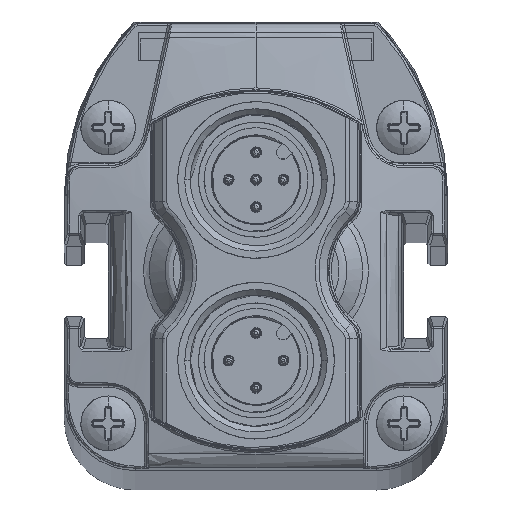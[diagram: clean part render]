
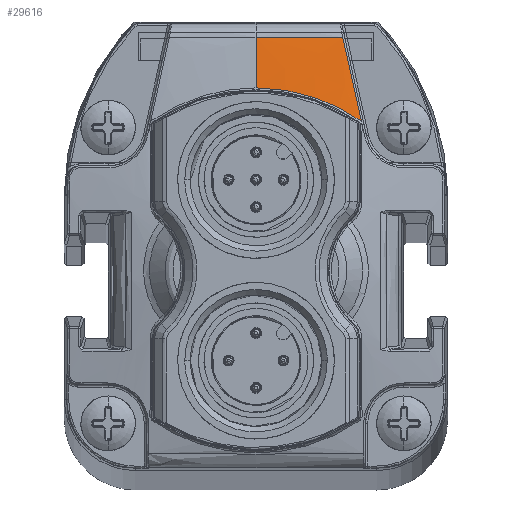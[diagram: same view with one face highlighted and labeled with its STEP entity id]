
A CAD part, top view. The second image highlights one B-rep face of the part: STEP entity #29616.
In plain terms, the highlighted free-form (B-spline) face has degree [3, 3] with [7, 4] control points.
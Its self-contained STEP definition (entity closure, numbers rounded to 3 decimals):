
#2644=CARTESIAN_POINT('',(54.965,32.33,1026.562));
#2662=CARTESIAN_POINT('',(55.089,32.195,1026.569));
#2663=CARTESIAN_POINT('',(55.071,32.277,1026.559));
#2664=CARTESIAN_POINT('',(55.032,32.439,1026.539));
#2665=CARTESIAN_POINT('',(54.961,32.767,1026.499));
#2666=CARTESIAN_POINT('',(54.833,33.339,1026.427));
#2667=CARTESIAN_POINT('',(54.581,34.482,1026.279));
#2668=CARTESIAN_POINT('',(54.083,36.73,1025.972));
#2669=CARTESIAN_POINT('',(53.659,38.649,1025.69));
#2670=CARTESIAN_POINT('',(53.379,39.915,1025.498));
#2672=CARTESIAN_POINT('',(54.965,32.33,1026.562));
#2673=CARTESIAN_POINT('',(55.015,32.295,1026.562));
#2674=CARTESIAN_POINT('',(55.059,32.248,1026.564));
#2675=CARTESIAN_POINT('',(55.089,32.195,1026.569));
#2677=CARTESIAN_POINT('',(45.459,35.307,1026.562));
#2678=CARTESIAN_POINT('',(45.941,35.307,1026.562));
#2679=CARTESIAN_POINT('',(46.906,35.265,1026.562));
#2680=CARTESIAN_POINT('',(48.34,35.078,1026.562));
#2681=CARTESIAN_POINT('',(49.752,34.767,1026.562));
#2682=CARTESIAN_POINT('',(51.132,34.335,1026.562));
#2683=CARTESIAN_POINT('',(52.468,33.784,1026.562));
#2684=CARTESIAN_POINT('',(53.753,33.121,1026.562));
#2685=CARTESIAN_POINT('',(54.57,32.605,1026.562));
#2686=CARTESIAN_POINT('',(54.965,32.33,1026.562));
#2688=DIRECTION('',(0.,-0.985,0.174));
#2689=VECTOR('',#2688,4.689);
#2690=CARTESIAN_POINT('',(45.459,39.925,1025.748));
#2691=LINE('',#2690,#2689);
#2692=CARTESIAN_POINT('',(53.379,39.915,1025.498));
#2693=CARTESIAN_POINT('',(50.746,39.921,1025.659));
#2694=CARTESIAN_POINT('',(48.103,39.925,1025.748));
#2695=CARTESIAN_POINT('',(45.459,39.925,1025.748));
#13844=CARTESIAN_POINT('',(53.379,39.915,1025.498));
#22973=VERTEX_POINT('',#2644);
#22975=VERTEX_POINT('',#2677);
#23032=CARTESIAN_POINT('',(45.459,39.925,1025.748));
#23033=VERTEX_POINT('',#23032);
#23073=VERTEX_POINT('',#13844);
#23075=VERTEX_POINT('',#2662);
#29577=CARTESIAN_POINT('',(45.459,35.269,1026.569));
#29578=CARTESIAN_POINT('',(45.459,37.294,1026.212));
#29579=CARTESIAN_POINT('',(45.459,39.318,1025.855));
#29580=CARTESIAN_POINT('',(45.459,41.342,1025.498));
#29581=CARTESIAN_POINT('',(46.206,35.269,1026.569));
#29582=CARTESIAN_POINT('',(46.297,37.294,1026.212));
#29583=CARTESIAN_POINT('',(46.388,39.318,1025.855));
#29584=CARTESIAN_POINT('',(46.479,41.342,1025.498));
#29585=CARTESIAN_POINT('',(47.758,35.169,1026.569));
#29586=CARTESIAN_POINT('',(48.038,37.181,1026.212));
#29587=CARTESIAN_POINT('',(48.318,39.193,1025.855));
#29588=CARTESIAN_POINT('',(48.598,41.205,1025.498));
#29589=CARTESIAN_POINT('',(50.209,34.646,1026.569));
#29590=CARTESIAN_POINT('',(50.788,36.595,1026.212));
#29591=CARTESIAN_POINT('',(51.366,38.543,1025.855));
#29592=CARTESIAN_POINT('',(51.945,40.491,1025.498));
#29593=CARTESIAN_POINT('',(52.701,33.693,1026.569));
#29594=CARTESIAN_POINT('',(53.582,35.525,1026.212));
#29595=CARTESIAN_POINT('',(54.464,37.357,1025.855));
#29596=CARTESIAN_POINT('',(55.346,39.189,1025.498));
#29597=CARTESIAN_POINT('',(54.316,32.746,1026.569));
#29598=CARTESIAN_POINT('',(55.394,34.463,1026.212));
#29599=CARTESIAN_POINT('',(56.472,36.18,1025.855));
#29600=CARTESIAN_POINT('',(57.55,37.897,1025.498));
#29601=CARTESIAN_POINT('',(55.09,32.196,1026.569));
#29602=CARTESIAN_POINT('',(56.263,33.846,1026.212));
#29603=CARTESIAN_POINT('',(57.436,35.495,1025.855));
#29604=CARTESIAN_POINT('',(58.608,37.145,1025.498));
#29605=B_SPLINE_SURFACE_WITH_KNOTS('',3,3,((#29577,#29578,#29579,#29580),
(#29581,#29582,#29583,#29584),(#29585,#29586,#29587,#29588),(#29589,#29590,
#29591,#29592),(#29593,#29594,#29595,#29596),(#29597,#29598,#29599,#29600),(
#29601,#29602,#29603,#29604)),.UNSPECIFIED.,.F.,.F.,.F.,(4,1,1,1,4),(4,4),(0.,
0.25,0.5,0.75,1.),(0.595,0.937),.UNSPECIFIED.);
#29606=ORIENTED_EDGE('',*,*,#29568,.F.);
#29607=ORIENTED_EDGE('',*,*,#29472,.F.);
#29609=ORIENTED_EDGE('',*,*,#29608,.F.);
#29611=ORIENTED_EDGE('',*,*,#29610,.F.);
#29613=ORIENTED_EDGE('',*,*,#29612,.F.);
#29614=EDGE_LOOP('',(#29606,#29607,#29609,#29611,#29613));
#29615=FACE_OUTER_BOUND('',#29614,.F.);
#29616=ADVANCED_FACE('',(#29615),#29605,.T.);
#2671=B_SPLINE_CURVE_WITH_KNOTS('',3,(#2662,#2663,#2664,#2665,#2666,#2667,#2668,
#2669,#2670),.UNSPECIFIED.,.F.,.F.,(4,1,1,1,1,1,4),(0.,0.032,
0.063,0.127,0.254,0.507,1.),
.UNSPECIFIED.);
#2676=B_SPLINE_CURVE_WITH_KNOTS('',3,(#2672,#2673,#2674,#2675),.UNSPECIFIED.,
.F.,.F.,(4,4),(0.,1.),.UNSPECIFIED.);
#2687=B_SPLINE_CURVE_WITH_KNOTS('',3,(#2677,#2678,#2679,#2680,#2681,#2682,#2683,
#2684,#2685,#2686),.UNSPECIFIED.,.F.,.F.,(4,1,1,1,1,1,1,4),(0.,
0.143,0.286,0.429,0.571,
0.714,0.857,1.),.UNSPECIFIED.);
#2696=B_SPLINE_CURVE_WITH_KNOTS('',3,(#2692,#2693,#2694,#2695),.UNSPECIFIED.,
.F.,.F.,(4,4),(0.,1.),.UNSPECIFIED.);
#29472=EDGE_CURVE('',#22973,#23075,#2676,.T.);
#29568=EDGE_CURVE('',#23075,#23073,#2671,.T.);
#29608=EDGE_CURVE('',#22975,#22973,#2687,.T.);
#29610=EDGE_CURVE('',#23033,#22975,#2691,.T.);
#29612=EDGE_CURVE('',#23073,#23033,#2696,.T.);
